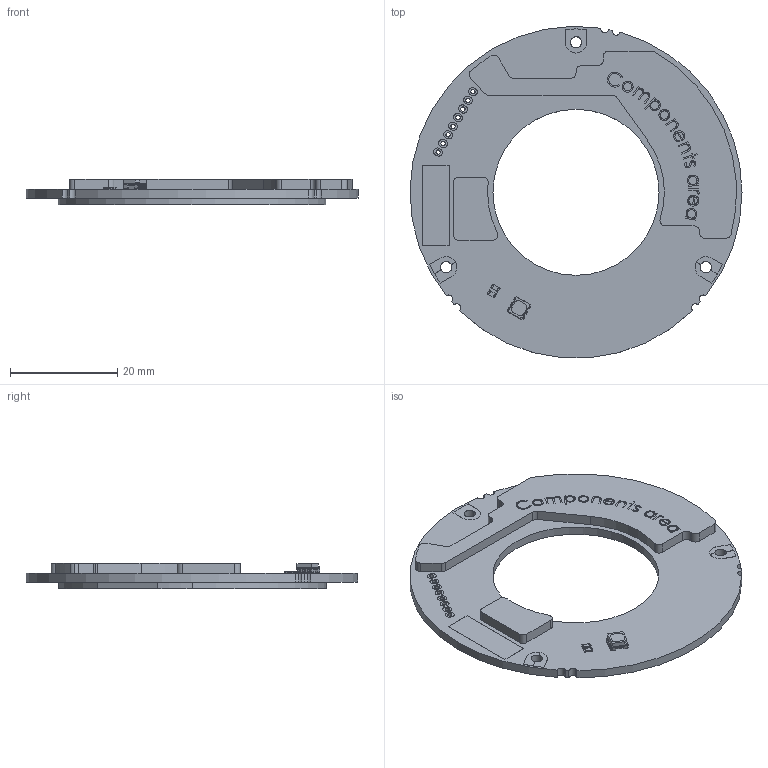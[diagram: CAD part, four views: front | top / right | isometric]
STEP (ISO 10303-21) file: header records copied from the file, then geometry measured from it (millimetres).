
FILE_DESCRIPTION (( 'STEP AP214' ), '1' );
FILE_NAME ('Orbis_ID30_BBM_v00_brez_konektorja_pokrov.step', '2024-01-23T06:55:37', ( '' ), ( '' ), 'SwSTEP 2.0', 'SolidWorks 2022', '' );
FILE_SCHEMA (( 'AUTOMOTIVE_DESIGN' ));
Length unit declared in the file: millimetre
Products named in the file (1): Orbis_ID30_BBM_v00_brez_konektorja_pokrov
Bounding box: 62 x 61.88 x 4.8 mm (x, y, z)
Volume: 6041.6 mm3; surface area: 6043.8 mm2
Topology: 11 solids, 11 shells, 1248 faces, 3419 edges, 2250 vertices
Faces by surface type: plane 803, bspline 249, cylinder 196
Entity records: 64096 total; most frequent: CARTESIAN_POINT 19820, ORIENTED_EDGE 6838, DIRECTION 5370, EDGE_CURVE 3419, LINE 2442, VECTOR 2442, VERTEX_POINT 2250, AXIS2_PLACEMENT_3D 1464
